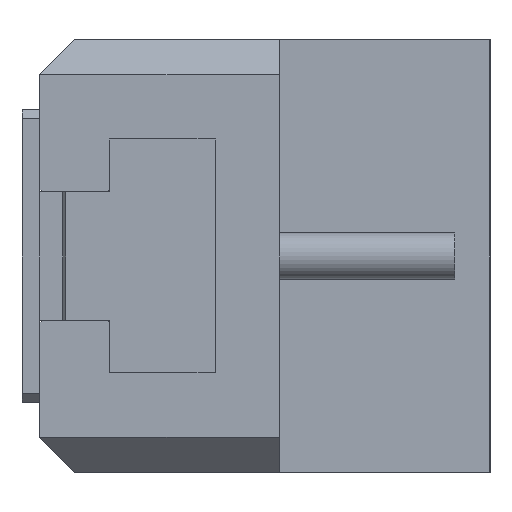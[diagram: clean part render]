
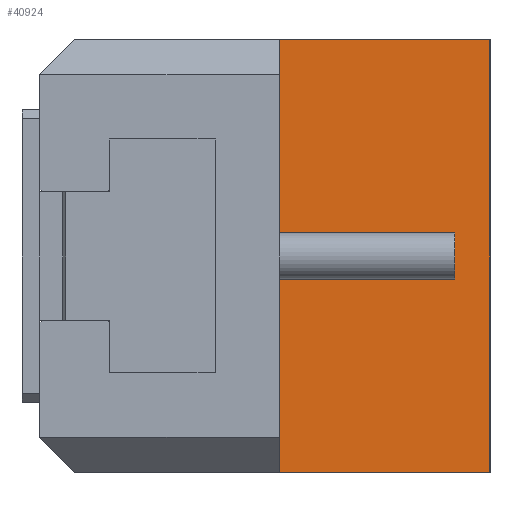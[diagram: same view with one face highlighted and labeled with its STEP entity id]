
A CAD part, left-side view. The second image highlights one B-rep face of the part: STEP entity #40924.
In plain terms, the highlighted planar face has unit normal (-1, 0, 0).
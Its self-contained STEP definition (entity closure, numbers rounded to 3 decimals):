
#2653 = ORIENTED_EDGE ( 'NONE', *, *, #41410, .T. ) ;
#5394 = VERTEX_POINT ( 'NONE', #29614 ) ;
#5660 = VECTOR ( 'NONE', #40617, 1000. ) ;
#9095 = DIRECTION ( 'NONE',  ( 0., 0., 1. ) ) ;
#10386 = CARTESIAN_POINT ( 'NONE',  ( -62.5, 36., 37. ) ) ;
#10737 = CARTESIAN_POINT ( 'NONE',  ( -62.5, 36., -37. ) ) ;
#15912 = DIRECTION ( 'NONE',  ( 1., 0., 0. ) ) ;
#16244 = CARTESIAN_POINT ( 'NONE',  ( -62.5, 0., 37. ) ) ;
#19027 = DIRECTION ( 'NONE',  ( 0., -1., 0. ) ) ;
#20068 = VERTEX_POINT ( 'NONE', #16244 ) ;
#20285 = CARTESIAN_POINT ( 'NONE',  ( -62.5, 0., -37. ) ) ;
#21208 = EDGE_CURVE ( 'NONE', #42774, #20068, #48928, .T. ) ;
#21675 = LINE ( 'NONE', #10737, #30540 ) ;
#22542 = FACE_OUTER_BOUND ( 'NONE', #41036, .T. ) ;
#22664 = EDGE_CURVE ( 'NONE', #5394, #45024, #21675, .T. ) ;
#24151 = ORIENTED_EDGE ( 'NONE', *, *, #22664, .T. ) ;
#25220 = EDGE_CURVE ( 'NONE', #5394, #42774, #25715, .T. ) ;
#25453 = DIRECTION ( 'NONE',  ( 0., -1., 0. ) ) ;
#25715 = LINE ( 'NONE', #10386, #5660 ) ;
#27001 = CARTESIAN_POINT ( 'NONE',  ( -62.5, 36., 37. ) ) ;
#29614 = CARTESIAN_POINT ( 'NONE',  ( -62.5, 36., -37. ) ) ;
#30540 = VECTOR ( 'NONE', #25453, 1000. ) ;
#31735 = CARTESIAN_POINT ( 'NONE',  ( -62.5, 0., 37. ) ) ;
#32009 = LINE ( 'NONE', #31735, #44394 ) ;
#34235 = CARTESIAN_POINT ( 'NONE',  ( -62.5, 36., 37. ) ) ;
#35339 = CARTESIAN_POINT ( 'NONE',  ( -62.5, 36., 37. ) ) ;
#36742 = AXIS2_PLACEMENT_3D ( 'NONE', #27001, #15912, #42344 ) ;
#38592 = PLANE ( 'NONE',  #36742 ) ;
#38942 = VECTOR ( 'NONE', #19027, 1000. ) ;
#40617 = DIRECTION ( 'NONE',  ( 0., 0., 1. ) ) ;
#40924 = ADVANCED_FACE ( 'NONE', ( #22542 ), #38592, .F. ) ;
#41036 = EDGE_LOOP ( 'NONE', ( #2653, #44198, #48849, #24151 ) ) ;
#41410 = EDGE_CURVE ( 'NONE', #45024, #20068, #32009, .T. ) ;
#42344 = DIRECTION ( 'NONE',  ( 0., 0., -1. ) ) ;
#42774 = VERTEX_POINT ( 'NONE', #35339 ) ;
#44198 = ORIENTED_EDGE ( 'NONE', *, *, #21208, .F. ) ;
#44394 = VECTOR ( 'NONE', #9095, 1000. ) ;
#45024 = VERTEX_POINT ( 'NONE', #20285 ) ;
#48849 = ORIENTED_EDGE ( 'NONE', *, *, #25220, .F. ) ;
#48928 = LINE ( 'NONE', #34235, #38942 ) ;
